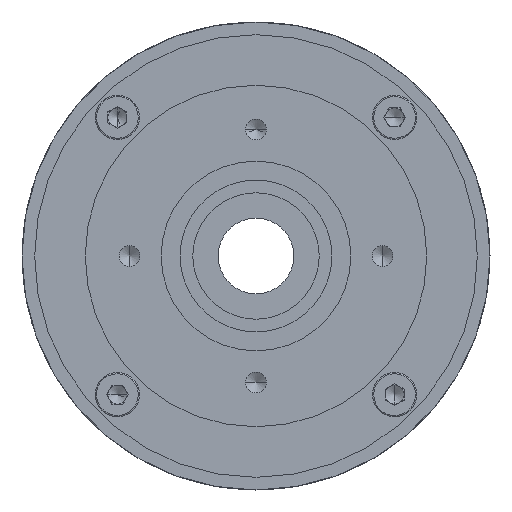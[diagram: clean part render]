
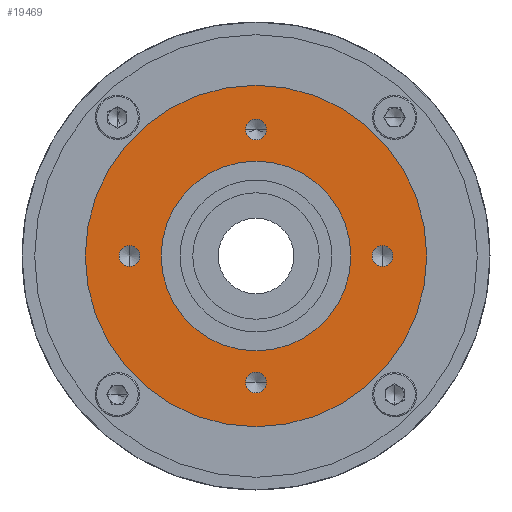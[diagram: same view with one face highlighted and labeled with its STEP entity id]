
A CAD part, left-side view. The second image highlights one B-rep face of the part: STEP entity #19469.
In plain terms, the highlighted planar face has unit normal (-1, 0, 0).
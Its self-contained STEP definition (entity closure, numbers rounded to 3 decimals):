
#62 = ORIENTED_EDGE ( 'NONE', *, *, #27165, .T. ) ;
#529 = FACE_BOUND ( 'NONE', #47692, .T. ) ;
#742 = DIRECTION ( 'NONE',  ( 0., 0., 1. ) ) ;
#928 = CARTESIAN_POINT ( 'NONE',  ( 2., 20., -1.65 ) ) ;
#936 = CARTESIAN_POINT ( 'NONE',  ( 2., 0., -27. ) ) ;
#1415 = DIRECTION ( 'NONE',  ( 1., 0., 0. ) ) ;
#2122 = VERTEX_POINT ( 'NONE', #50440 ) ;
#3278 = DIRECTION ( 'NONE',  ( 0., 0., 1. ) ) ;
#3853 = CARTESIAN_POINT ( 'NONE',  ( 2., 0., 15. ) ) ;
#3982 = AXIS2_PLACEMENT_3D ( 'NONE', #40421, #32205, #18979 ) ;
#3992 = VERTEX_POINT ( 'NONE', #46412 ) ;
#4727 = AXIS2_PLACEMENT_3D ( 'NONE', #9302, #8923, #39137 ) ;
#6578 = VERTEX_POINT ( 'NONE', #45690 ) ;
#6580 = DIRECTION ( 'NONE',  ( -1., 0., 0. ) ) ;
#7062 = VERTEX_POINT ( 'NONE', #13031 ) ;
#8021 = VERTEX_POINT ( 'NONE', #42992 ) ;
#8923 = DIRECTION ( 'NONE',  ( -1., 0., 0. ) ) ;
#9302 = CARTESIAN_POINT ( 'NONE',  ( 2., 0., 0. ) ) ;
#9491 = CARTESIAN_POINT ( 'NONE',  ( 2., 0., 0. ) ) ;
#9903 = EDGE_LOOP ( 'NONE', ( #36192, #37636 ) ) ;
#10338 = EDGE_CURVE ( 'NONE', #8021, #48481, #24971, .T. ) ;
#10515 = CARTESIAN_POINT ( 'NONE',  ( 2., 0., 0. ) ) ;
#10659 = ORIENTED_EDGE ( 'NONE', *, *, #12588, .T. ) ;
#10685 = CARTESIAN_POINT ( 'NONE',  ( 2., 0., -20. ) ) ;
#10708 = PLANE ( 'NONE',  #13192 ) ;
#10962 = EDGE_LOOP ( 'NONE', ( #13773, #28252 ) ) ;
#11245 = EDGE_CURVE ( 'NONE', #6578, #7062, #40271, .T. ) ;
#11451 = AXIS2_PLACEMENT_3D ( 'NONE', #52245, #18115, #742 ) ;
#11582 = AXIS2_PLACEMENT_3D ( 'NONE', #19009, #27387, #48849 ) ;
#12588 = EDGE_CURVE ( 'NONE', #38089, #3992, #17543, .T. ) ;
#13031 = CARTESIAN_POINT ( 'NONE',  ( 2., -20., 1.65 ) ) ;
#13192 = AXIS2_PLACEMENT_3D ( 'NONE', #10515, #6580, #27490 ) ;
#13297 = CIRCLE ( 'NONE', #45920, 1.65 ) ;
#13773 = ORIENTED_EDGE ( 'NONE', *, *, #25940, .F. ) ;
#13816 = DIRECTION ( 'NONE',  ( 0., 0., 1. ) ) ;
#17016 = VERTEX_POINT ( 'NONE', #52816 ) ;
#17543 = CIRCLE ( 'NONE', #11582, 1.65 ) ;
#18063 = CARTESIAN_POINT ( 'NONE',  ( 2., 0., 20. ) ) ;
#18115 = DIRECTION ( 'NONE',  ( -1., 0., 0. ) ) ;
#18759 = ORIENTED_EDGE ( 'NONE', *, *, #34623, .T. ) ;
#18862 = DIRECTION ( 'NONE',  ( 1., 0., 0. ) ) ;
#18979 = DIRECTION ( 'NONE',  ( 0., 0., 1. ) ) ;
#19009 = CARTESIAN_POINT ( 'NONE',  ( 2., 0., -20. ) ) ;
#19469 = ADVANCED_FACE ( 'NONE', ( #45227, #52581, #23230, #529, #27168, #31184 ), #10708, .T. ) ;
#20735 = EDGE_CURVE ( 'NONE', #37604, #50144, #42495, .T. ) ;
#22080 = EDGE_LOOP ( 'NONE', ( #33541, #34214 ) ) ;
#23230 = FACE_BOUND ( 'NONE', #31340, .T. ) ;
#24187 = DIRECTION ( 'NONE',  ( -1., 0., 0. ) ) ;
#24971 = CIRCLE ( 'NONE', #45515, 27. ) ;
#25499 = CARTESIAN_POINT ( 'NONE',  ( 2., 20., 0. ) ) ;
#25940 = EDGE_CURVE ( 'NONE', #50745, #17016, #42973, .T. ) ;
#26338 = VERTEX_POINT ( 'NONE', #50141 ) ;
#27165 = EDGE_CURVE ( 'NONE', #3992, #38089, #39586, .T. ) ;
#27168 = FACE_BOUND ( 'NONE', #55290, .T. ) ;
#27387 = DIRECTION ( 'NONE',  ( 1., 0., 0. ) ) ;
#27490 = DIRECTION ( 'NONE',  ( 0., 0., 1. ) ) ;
#28071 = DIRECTION ( 'NONE',  ( 1., 0., 0. ) ) ;
#28252 = ORIENTED_EDGE ( 'NONE', *, *, #41671, .F. ) ;
#29586 = CIRCLE ( 'NONE', #54138, 1.65 ) ;
#30996 = EDGE_CURVE ( 'NONE', #48481, #8021, #53502, .T. ) ;
#31120 = AXIS2_PLACEMENT_3D ( 'NONE', #10685, #31572, #44641 ) ;
#31140 = CIRCLE ( 'NONE', #44522, 15. ) ;
#31184 = FACE_BOUND ( 'NONE', #22080, .T. ) ;
#31340 = EDGE_LOOP ( 'NONE', ( #18759, #51096 ) ) ;
#31572 = DIRECTION ( 'NONE',  ( 1., 0., 0. ) ) ;
#32205 = DIRECTION ( 'NONE',  ( 1., 0., 0. ) ) ;
#32921 = EDGE_CURVE ( 'NONE', #26338, #2122, #35479, .T. ) ;
#33300 = CARTESIAN_POINT ( 'NONE',  ( 2., 0., 0. ) ) ;
#33541 = ORIENTED_EDGE ( 'NONE', *, *, #38286, .T. ) ;
#34214 = ORIENTED_EDGE ( 'NONE', *, *, #32921, .T. ) ;
#34623 = EDGE_CURVE ( 'NONE', #50144, #37604, #29586, .T. ) ;
#35228 = DIRECTION ( 'NONE',  ( 1., 0., 0. ) ) ;
#35479 = CIRCLE ( 'NONE', #3982, 1.65 ) ;
#36192 = ORIENTED_EDGE ( 'NONE', *, *, #10338, .T. ) ;
#36822 = DIRECTION ( 'NONE',  ( 0., 0., 1. ) ) ;
#37604 = VERTEX_POINT ( 'NONE', #928 ) ;
#37636 = ORIENTED_EDGE ( 'NONE', *, *, #30996, .T. ) ;
#37968 = AXIS2_PLACEMENT_3D ( 'NONE', #44217, #18862, #39922 ) ;
#38089 = VERTEX_POINT ( 'NONE', #50703 ) ;
#38286 = EDGE_CURVE ( 'NONE', #2122, #26338, #13297, .T. ) ;
#39137 = DIRECTION ( 'NONE',  ( 0., 0., 1. ) ) ;
#39325 = DIRECTION ( 'NONE',  ( -1., 0., 0. ) ) ;
#39586 = CIRCLE ( 'NONE', #31120, 1.65 ) ;
#39922 = DIRECTION ( 'NONE',  ( 0., 0., 1. ) ) ;
#40156 = CIRCLE ( 'NONE', #43170, 1.65 ) ;
#40271 = CIRCLE ( 'NONE', #37968, 1.65 ) ;
#40421 = CARTESIAN_POINT ( 'NONE',  ( 2., 0., 20. ) ) ;
#41671 = EDGE_CURVE ( 'NONE', #17016, #50745, #31140, .T. ) ;
#42495 = CIRCLE ( 'NONE', #50673, 1.65 ) ;
#42973 = CIRCLE ( 'NONE', #11451, 15. ) ;
#42992 = CARTESIAN_POINT ( 'NONE',  ( 2., 0., 27. ) ) ;
#43170 = AXIS2_PLACEMENT_3D ( 'NONE', #53652, #28071, #36822 ) ;
#43632 = CARTESIAN_POINT ( 'NONE',  ( 2., 20., 0. ) ) ;
#44217 = CARTESIAN_POINT ( 'NONE',  ( 2., -20., 0. ) ) ;
#44522 = AXIS2_PLACEMENT_3D ( 'NONE', #9491, #39325, #13816 ) ;
#44641 = DIRECTION ( 'NONE',  ( 0., 0., 1. ) ) ;
#45227 = FACE_BOUND ( 'NONE', #10962, .T. ) ;
#45515 = AXIS2_PLACEMENT_3D ( 'NONE', #33300, #24187, #3278 ) ;
#45690 = CARTESIAN_POINT ( 'NONE',  ( 2., -20., -1.65 ) ) ;
#45920 = AXIS2_PLACEMENT_3D ( 'NONE', #18063, #1415, #47703 ) ;
#46412 = CARTESIAN_POINT ( 'NONE',  ( 2., 0., -21.65 ) ) ;
#46949 = DIRECTION ( 'NONE',  ( 0., 0., 1. ) ) ;
#47692 = EDGE_LOOP ( 'NONE', ( #10659, #62 ) ) ;
#47703 = DIRECTION ( 'NONE',  ( 0., 0., 1. ) ) ;
#48481 = VERTEX_POINT ( 'NONE', #936 ) ;
#48849 = DIRECTION ( 'NONE',  ( 0., 0., 1. ) ) ;
#50141 = CARTESIAN_POINT ( 'NONE',  ( 2., 0., 18.35 ) ) ;
#50144 = VERTEX_POINT ( 'NONE', #50749 ) ;
#50440 = CARTESIAN_POINT ( 'NONE',  ( 2., 0., 21.65 ) ) ;
#50673 = AXIS2_PLACEMENT_3D ( 'NONE', #43632, #35228, #51679 ) ;
#50703 = CARTESIAN_POINT ( 'NONE',  ( 2., 0., -18.35 ) ) ;
#50745 = VERTEX_POINT ( 'NONE', #3853 ) ;
#50749 = CARTESIAN_POINT ( 'NONE',  ( 2., 20., 1.65 ) ) ;
#51096 = ORIENTED_EDGE ( 'NONE', *, *, #20735, .T. ) ;
#51679 = DIRECTION ( 'NONE',  ( 0., 0., 1. ) ) ;
#52245 = CARTESIAN_POINT ( 'NONE',  ( 2., 0., 0. ) ) ;
#52551 = ORIENTED_EDGE ( 'NONE', *, *, #11245, .T. ) ;
#52581 = FACE_OUTER_BOUND ( 'NONE', #9903, .T. ) ;
#52816 = CARTESIAN_POINT ( 'NONE',  ( 2., 0., -15. ) ) ;
#52992 = ORIENTED_EDGE ( 'NONE', *, *, #54031, .T. ) ;
#53502 = CIRCLE ( 'NONE', #4727, 27. ) ;
#53652 = CARTESIAN_POINT ( 'NONE',  ( 2., -20., 0. ) ) ;
#54031 = EDGE_CURVE ( 'NONE', #7062, #6578, #40156, .T. ) ;
#54138 = AXIS2_PLACEMENT_3D ( 'NONE', #25499, #55392, #46949 ) ;
#55290 = EDGE_LOOP ( 'NONE', ( #52992, #52551 ) ) ;
#55392 = DIRECTION ( 'NONE',  ( 1., 0., 0. ) ) ;
